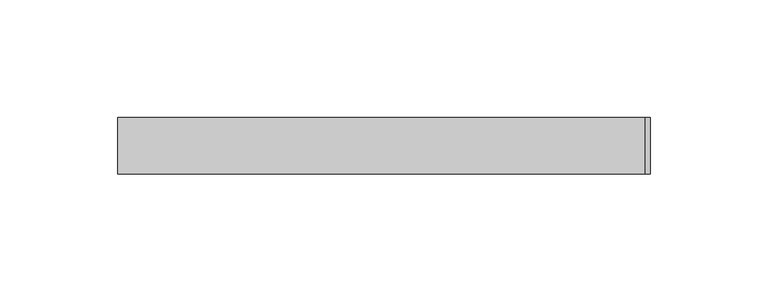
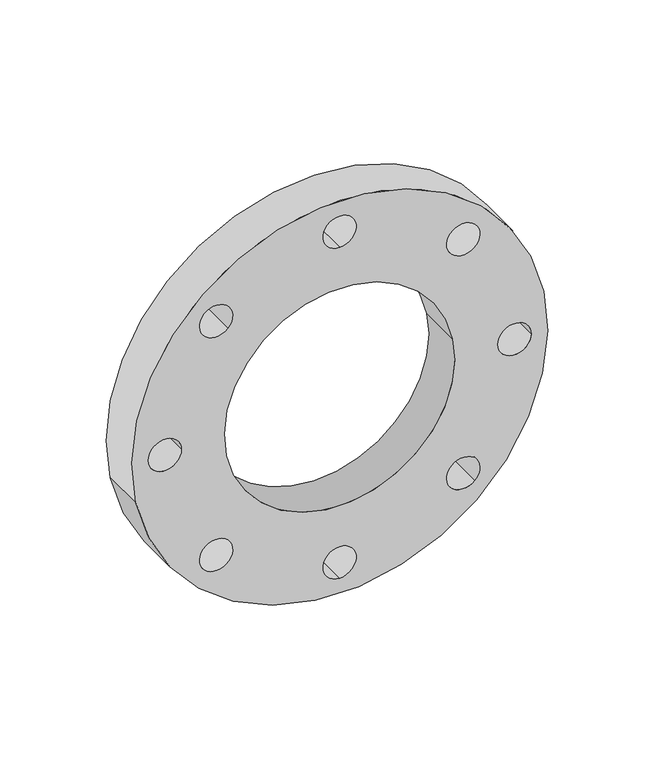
"""IFC4 building model written with IfcOpenShell, lengths in millimetres: pipe fitting geometry, 01051019 : Flange livre."""

from ifc_helpers import new_model, si_unit, point, frame, frame_2d, origin, origin_2d, place, context, project, spatial, circle_curve, trimmed, segment, composite_curve, outline, extrude, source, transform, mapped, element, save


def pipe_fitting_e9b8f1a5(model_context):
    return source(origin(), model_context, "Body", "SweptSolid", [
        extrude(outline(composite_curve([segment(trimmed(circle_curve(origin_2d(), 113.0), [point((-22.0452064, -110.8287367))], [point((22.0452064, 110.8287367))], False, "CARTESIAN"), True, "CONTINUOUS"), segment(trimmed(circle_curve(origin_2d(), 113.0), [point((22.0452064, 110.8287367))], [point((-22.0452064, -110.8287367))], False, "CARTESIAN"), True, "CONTINUOUS")], self_intersect=False), holes=[composite_curve([segment(trimmed(circle_curve(origin_2d(), 62.5), [point((-12.1931451, -61.29908))], [point((12.1931451, 61.29908))], True, "CARTESIAN"), True, "CONTINUOUS"), segment(trimmed(circle_curve(origin_2d(), 62.5), [point((12.1931451, 61.29908))], [point((-12.1931451, -61.29908))], True, "CARTESIAN"), True, "CONTINUOUS")], self_intersect=False), composite_curve([segment(trimmed(circle_curve(frame_2d((0.0, -95.0)), 9.0), [point((0.0, -86.0))], [point((0.0, -104.0))], True, "CARTESIAN"), True, "CONTINUOUS"), segment(trimmed(circle_curve(frame_2d((0.0, -95.0)), 9.0), [point((0.0, -104.0))], [point((0.0, -86.0))], True, "CARTESIAN"), True, "CONTINUOUS")], self_intersect=False), composite_curve([segment(trimmed(circle_curve(frame_2d((67.1751442, -67.1751442)), 9.0), [point((60.8111832, -60.8111832))], [point((73.5391052, -73.5391052))], True, "CARTESIAN"), True, "CONTINUOUS"), segment(trimmed(circle_curve(frame_2d((67.1751442, -67.1751442)), 9.0), [point((73.5391052, -73.5391052))], [point((60.8111832, -60.8111832))], True, "CARTESIAN"), True, "CONTINUOUS")], self_intersect=False), composite_curve([segment(trimmed(circle_curve(frame_2d((-67.1751442, -67.1751442)), 9.0), [point((-60.8111832, -60.8111832))], [point((-73.5391052, -73.5391052))], True, "CARTESIAN"), True, "CONTINUOUS"), segment(trimmed(circle_curve(frame_2d((-67.1751442, -67.1751442)), 9.0), [point((-73.5391052, -73.5391052))], [point((-60.8111832, -60.8111832))], True, "CARTESIAN"), True, "CONTINUOUS")], self_intersect=False), composite_curve([segment(trimmed(circle_curve(frame_2d((-95.0, 0.0)), 9.0), [point((-86.0, 0.0))], [point((-104.0, 0.0))], True, "CARTESIAN"), True, "CONTINUOUS"), segment(trimmed(circle_curve(frame_2d((-95.0, 0.0)), 9.0), [point((-104.0, 0.0))], [point((-86.0, 0.0))], True, "CARTESIAN"), True, "CONTINUOUS")], self_intersect=False), composite_curve([segment(trimmed(circle_curve(frame_2d((-67.1751442, 67.1751442)), 9.0), [point((-60.8111832, 60.8111832))], [point((-73.5391052, 73.5391052))], True, "CARTESIAN"), True, "CONTINUOUS"), segment(trimmed(circle_curve(frame_2d((-67.1751442, 67.1751442)), 9.0), [point((-73.5391052, 73.5391052))], [point((-60.8111832, 60.8111832))], True, "CARTESIAN"), True, "CONTINUOUS")], self_intersect=False), composite_curve([segment(trimmed(circle_curve(frame_2d((0.0, 95.0)), 9.0), [point((0.0, 86.0))], [point((0.0, 104.0))], True, "CARTESIAN"), True, "CONTINUOUS"), segment(trimmed(circle_curve(frame_2d((0.0, 95.0)), 9.0), [point((0.0, 104.0))], [point((0.0, 86.0))], True, "CARTESIAN"), True, "CONTINUOUS")], self_intersect=False), composite_curve([segment(trimmed(circle_curve(frame_2d((67.1751442, 67.1751442)), 9.0), [point((60.8111832, 60.8111832))], [point((73.5391052, 73.5391052))], True, "CARTESIAN"), True, "CONTINUOUS"), segment(trimmed(circle_curve(frame_2d((67.1751442, 67.1751442)), 9.0), [point((73.5391052, 73.5391052))], [point((60.8111832, 60.8111832))], True, "CARTESIAN"), True, "CONTINUOUS")], self_intersect=False), composite_curve([segment(trimmed(circle_curve(frame_2d((95.0, 0.0)), 9.0), [point((86.0, 0.0))], [point((104.0, 0.0))], True, "CARTESIAN"), True, "CONTINUOUS"), segment(trimmed(circle_curve(frame_2d((95.0, 0.0)), 9.0), [point((104.0, 0.0))], [point((86.0, 0.0))], True, "CARTESIAN"), True, "CONTINUOUS")], self_intersect=False)]), frame((0.0, -12.0, 0.0), z_axis=(0.0, 1.0, 0.0), x_axis=(0.0, 0.0, 1.0)), (0.0, 0.0, 1.0), 24.0),
    ])


if __name__ == "__main__":
    model = new_model("IFC4")
    model_context = context("Model", 3, world=origin())
    ifc_project = project(units=[si_unit("LENGTHUNIT", "METRE", prefix="MILLI")], contexts=[model_context])
    site = spatial("IfcSite", under=ifc_project)
    building = spatial("IfcBuilding", under=site)
    placement = place(None, origin())
    pipe_fitting_shape = pipe_fitting_e9b8f1a5(model_context)
    element("IfcPipeFitting", 1, ObjectType="01051019 : Flange livre", at=placement, inside=building, context=model_context, shape_type="MappedRepresentation", body=[
        mapped(pipe_fitting_shape, transform((0.0, 0.0, 0.0), x_axis=(1.0, 0.0, 0.0), y_axis=(0.0, 1.0, 0.0), z_axis=(0.0, 0.0, 1.0))),
    ])
    save(model, "model.ifc")
